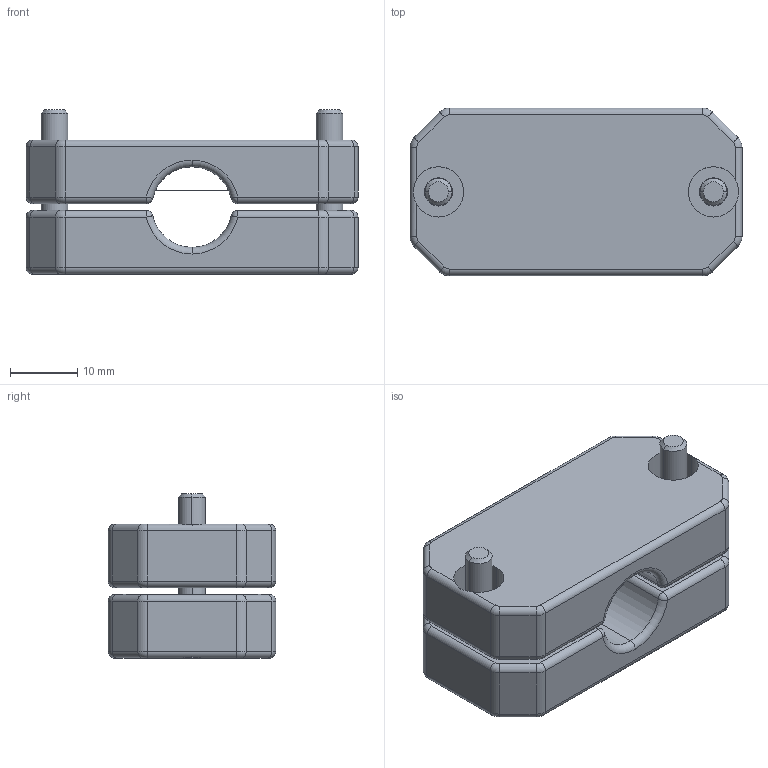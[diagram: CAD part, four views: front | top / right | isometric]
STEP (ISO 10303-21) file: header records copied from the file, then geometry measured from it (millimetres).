
FILE_DESCRIPTION (( 'STEP AP203' ), '1' );
FILE_NAME ('75003004.STEP', '2016-11-02T15:52:50', ( '' ), ( '' ), 'SwSTEP 2.0', 'SolidWorks 2015', '' );
FILE_SCHEMA (( 'CONFIG_CONTROL_DESIGN' ));
Length unit declared in the file: millimetre
Products named in the file (1): 75003004
Bounding box: 49.5 x 25 x 24.5 mm (x, y, z)
Volume: 19568.1 mm3; surface area: 8540.8 mm2
Topology: 1 solids, 1 shells, 198 faces, 472 edges, 270 vertices
Faces by surface type: cylinder 94, plane 46, torus 42, cone 8, sphere 8
Entity records: 6309 total; most frequent: CARTESIAN_POINT 1581, DIRECTION 1066, ORIENTED_EDGE 928, EDGE_CURVE 464, AXIS2_PLACEMENT_3D 431, VERTEX_POINT 270, CIRCLE 232, EDGE_LOOP 212
